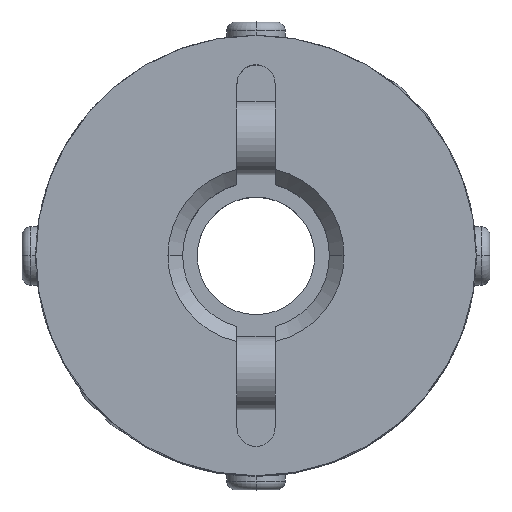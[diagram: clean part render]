
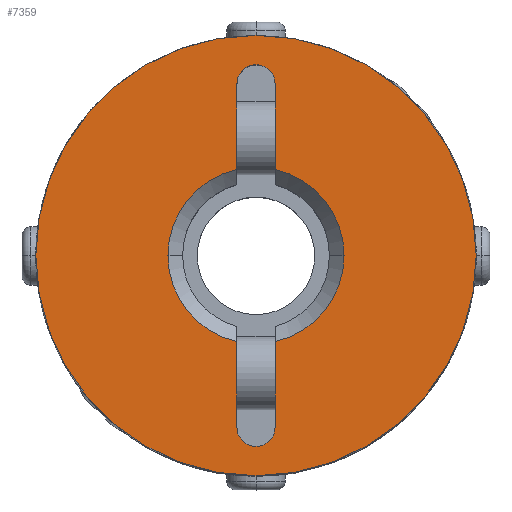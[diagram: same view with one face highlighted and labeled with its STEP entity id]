
A CAD part, top view. The second image highlights one B-rep face of the part: STEP entity #7359.
In plain terms, the highlighted planar face has unit normal (0, 0, 1).
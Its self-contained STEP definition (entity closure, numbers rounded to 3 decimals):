
#1033=CARTESIAN_POINT('',(-7.5,0.,9.0));
#1034=VERTEX_POINT('',#1033);
#1041=CARTESIAN_POINT('',(7.5,0.0,9.0));
#1042=VERTEX_POINT('',#1041);
#1043=CARTESIAN_POINT('',(0.0,0.0,9.0));
#1044=DIRECTION('',(0.0,0.0,-1.0));
#1045=DIRECTION('',(1.0,0.0,0.0));
#1046=AXIS2_PLACEMENT_3D('',#1043,#1044,#1045);
#1047=CIRCLE('',#1046,7.5);
#1048=EDGE_CURVE('',#1034,#1042,#1047,.T.);
#1400=CARTESIAN_POINT('',(3.0,0.,9.0));
#1401=VERTEX_POINT('',#1400);
#1408=CARTESIAN_POINT('',(0.65,2.929,9.0));
#1409=VERTEX_POINT('',#1408);
#1410=CARTESIAN_POINT('',(0.0,0.0,9.0));
#1411=DIRECTION('',(0.0,0.0,1.0));
#1412=DIRECTION('',(-1.0,0.0,0.0));
#1413=AXIS2_PLACEMENT_3D('',#1410,#1411,#1412);
#1414=CIRCLE('',#1413,3.0);
#1415=EDGE_CURVE('',#1401,#1409,#1414,.T.);
#1439=CARTESIAN_POINT('',(-3.0,0.,9.0));
#1440=VERTEX_POINT('',#1439);
#1448=CARTESIAN_POINT('',(-0.65,2.929,9.0));
#1449=VERTEX_POINT('',#1448);
#1463=CARTESIAN_POINT('',(0.0,0.0,9.0));
#1464=DIRECTION('',(0.0,0.0,1.0));
#1465=DIRECTION('',(-1.0,0.0,0.0));
#1466=AXIS2_PLACEMENT_3D('',#1463,#1464,#1465);
#1467=CIRCLE('',#1466,3.0);
#1468=EDGE_CURVE('',#1449,#1440,#1467,.T.);
#1478=CARTESIAN_POINT('',(0.46,6.31,9.0));
#1479=VERTEX_POINT('',#1478);
#1488=CARTESIAN_POINT('',(-0.65,5.85,9.0));
#1489=VERTEX_POINT('',#1488);
#1490=CARTESIAN_POINT('',(0.,5.85,9.0));
#1491=DIRECTION('',(0.0,0.0,1.0));
#1492=DIRECTION('',(0.707,0.707,0.0));
#1493=AXIS2_PLACEMENT_3D('',#1490,#1491,#1492);
#1494=CIRCLE('',#1493,0.65);
#1495=EDGE_CURVE('',#1479,#1489,#1494,.T.);
#1520=CARTESIAN_POINT('',(0.46,-6.31,9.0));
#1521=VERTEX_POINT('',#1520);
#1530=CARTESIAN_POINT('',(0.65,-5.85,9.0));
#1531=VERTEX_POINT('',#1530);
#1532=CARTESIAN_POINT('',(0.,-5.85,9.0));
#1533=DIRECTION('',(0.0,0.0,1.0));
#1534=DIRECTION('',(-0.707,-0.707,0.0));
#1535=AXIS2_PLACEMENT_3D('',#1532,#1533,#1534);
#1536=CIRCLE('',#1535,0.65);
#1537=EDGE_CURVE('',#1521,#1531,#1536,.T.);
#7085=CARTESIAN_POINT('',(-0.65,-5.85,9.0));
#7086=VERTEX_POINT('',#7085);
#7093=CARTESIAN_POINT('',(0.,-5.85,9.0));
#7094=DIRECTION('',(0.0,0.0,1.0));
#7095=DIRECTION('',(-0.707,-0.707,0.0));
#7096=AXIS2_PLACEMENT_3D('',#7093,#7094,#7095);
#7097=CIRCLE('',#7096,0.65);
#7098=EDGE_CURVE('',#7086,#1521,#7097,.T.);
#7109=CARTESIAN_POINT('',(0.65,-2.929,9.0));
#7110=VERTEX_POINT('',#7109);
#7111=CARTESIAN_POINT('',(0.65,-2.929,9.0));
#7112=DIRECTION('',(0.0,-1.0,0.0));
#7113=VECTOR('',#7112,2.921);
#7114=LINE('',#7111,#7113);
#7115=EDGE_CURVE('',#7110,#1531,#7114,.T.);
#7158=CARTESIAN_POINT('',(-0.65,2.929,9.0));
#7159=DIRECTION('',(0.0,1.0,0.0));
#7160=VECTOR('',#7159,2.921);
#7161=LINE('',#7158,#7160);
#7162=EDGE_CURVE('',#1449,#1489,#7161,.T.);
#7209=CARTESIAN_POINT('',(0.65,5.85,9.0));
#7210=VERTEX_POINT('',#7209);
#7217=CARTESIAN_POINT('',(0.,5.85,9.0));
#7218=DIRECTION('',(0.0,0.0,1.0));
#7219=DIRECTION('',(0.707,0.707,0.0));
#7220=AXIS2_PLACEMENT_3D('',#7217,#7218,#7219);
#7221=CIRCLE('',#7220,0.65);
#7222=EDGE_CURVE('',#7210,#1479,#7221,.T.);
#7256=CARTESIAN_POINT('',(0.65,5.85,9.0));
#7257=DIRECTION('',(0.0,-1.0,0.0));
#7258=VECTOR('',#7257,2.921);
#7259=LINE('',#7256,#7258);
#7260=EDGE_CURVE('',#7210,#1409,#7259,.T.);
#7290=CARTESIAN_POINT('',(-0.65,-2.929,9.0));
#7291=VERTEX_POINT('',#7290);
#7305=CARTESIAN_POINT('',(-0.65,-5.85,9.0));
#7306=DIRECTION('',(0.0,1.0,0.0));
#7307=VECTOR('',#7306,2.921);
#7308=LINE('',#7305,#7307);
#7309=EDGE_CURVE('',#7086,#7291,#7308,.T.);
#7318=CARTESIAN_POINT('',(0.682,0.,9.0));
#7319=DIRECTION('',(0.0,0.0,1.0));
#7320=DIRECTION('',(1.0,0.0,0.0));
#7321=AXIS2_PLACEMENT_3D('',#7318,#7319,#7320);
#7322=PLANE('',#7321);
#7323=CARTESIAN_POINT('',(0.0,0.0,9.0));
#7324=DIRECTION('',(0.0,0.0,-1.0));
#7325=DIRECTION('',(1.0,0.0,0.0));
#7326=AXIS2_PLACEMENT_3D('',#7323,#7324,#7325);
#7327=CIRCLE('',#7326,7.5);
#7328=EDGE_CURVE('',#1042,#1034,#7327,.T.);
#7329=ORIENTED_EDGE('',*,*,#7328,.F.);
#7330=ORIENTED_EDGE('',*,*,#1048,.F.);
#7331=EDGE_LOOP('',(#7329,#7330));
#7332=FACE_OUTER_BOUND('',#7331,.T.);
#7333=ORIENTED_EDGE('',*,*,#7115,.T.);
#7334=ORIENTED_EDGE('',*,*,#1537,.F.);
#7335=ORIENTED_EDGE('',*,*,#7098,.F.);
#7336=ORIENTED_EDGE('',*,*,#7309,.T.);
#7337=CARTESIAN_POINT('',(0.0,0.0,9.0));
#7338=DIRECTION('',(0.0,0.0,1.0));
#7339=DIRECTION('',(-1.0,0.0,0.0));
#7340=AXIS2_PLACEMENT_3D('',#7337,#7338,#7339);
#7341=CIRCLE('',#7340,3.0);
#7342=EDGE_CURVE('',#1440,#7291,#7341,.T.);
#7343=ORIENTED_EDGE('',*,*,#7342,.F.);
#7344=ORIENTED_EDGE('',*,*,#1468,.F.);
#7345=ORIENTED_EDGE('',*,*,#7162,.T.);
#7346=ORIENTED_EDGE('',*,*,#1495,.F.);
#7347=ORIENTED_EDGE('',*,*,#7222,.F.);
#7348=ORIENTED_EDGE('',*,*,#7260,.T.);
#7349=ORIENTED_EDGE('',*,*,#1415,.F.);
#7350=CARTESIAN_POINT('',(0.0,0.0,9.0));
#7351=DIRECTION('',(0.0,0.0,1.0));
#7352=DIRECTION('',(-1.0,0.0,0.0));
#7353=AXIS2_PLACEMENT_3D('',#7350,#7351,#7352);
#7354=CIRCLE('',#7353,3.0);
#7355=EDGE_CURVE('',#7110,#1401,#7354,.T.);
#7356=ORIENTED_EDGE('',*,*,#7355,.F.);
#7357=EDGE_LOOP('',(#7333,#7334,#7335,#7336,#7343,#7344,#7345,#7346,#7347,#7348,#7349,#7356));
#7358=FACE_BOUND('',#7357,.T.);
#7359=ADVANCED_FACE('',(#7332,#7358),#7322,.T.);
